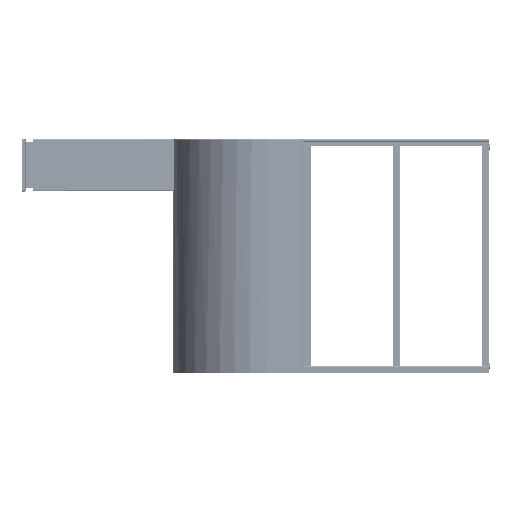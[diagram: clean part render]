
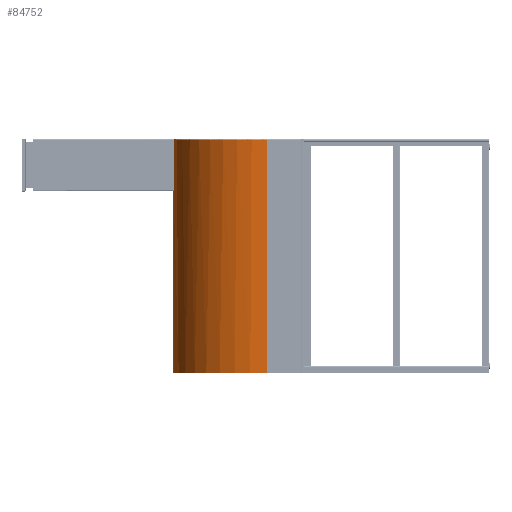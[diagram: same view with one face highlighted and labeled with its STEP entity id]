
A CAD part, left-side view. The second image highlights one B-rep face of the part: STEP entity #84752.
In plain terms, the highlighted cylindrical face has radius 400 mm (diameter 800 mm), a partial arc.
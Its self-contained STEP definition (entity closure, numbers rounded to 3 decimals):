
#495=B_SPLINE_CURVE_WITH_KNOTS('',3,(#128211,#128212,#128213,#128214,#128215,
#128216,#128217,#128218,#128219,#128220),.UNSPECIFIED.,.F.,.F.,(4,2,2,2,
4),(0.,0.075,0.151,0.227,0.302),
 .UNSPECIFIED.);
#498=B_SPLINE_CURVE_WITH_KNOTS('',3,(#128337,#128338,#128339,#128340,#128341,
#128342,#128343,#128344,#128345,#128346),.UNSPECIFIED.,.F.,.F.,(4,2,2,2,
4),(0.302,0.378,0.454,0.53,
0.605),.UNSPECIFIED.);
#7701=FACE_OUTER_BOUND('',#11750,.T.);
#11750=EDGE_LOOP('',(#58061,#58062,#58063,#58064,#58065,#58066,#58067,#58068,
#58069,#58070));
#22384=LINE('',#128350,#26913);
#22385=LINE('',#128353,#26914);
#22386=LINE('',#128354,#26915);
#22387=LINE('',#128355,#26916);
#26913=VECTOR('',#101222,10.);
#26914=VECTOR('',#101227,10.);
#26915=VECTOR('',#101228,10.);
#26916=VECTOR('',#101229,10.);
#31423=CIRCLE('',#89673,400.);
#31426=CIRCLE('',#89682,400.);
#31430=CIRCLE('',#89688,400.);
#31431=CIRCLE('',#89695,400.);
#38472=VERTEX_POINT('',#128209);
#38473=VERTEX_POINT('',#128210);
#38476=VERTEX_POINT('',#128230);
#38486=VERTEX_POINT('',#128279);
#38487=VERTEX_POINT('',#128280);
#38488=VERTEX_POINT('',#128308);
#38489=VERTEX_POINT('',#128314);
#38491=VERTEX_POINT('',#128320);
#38493=VERTEX_POINT('',#128335);
#38494=VERTEX_POINT('',#128336);
#46222=EDGE_CURVE('',#38472,#38473,#495,.F.);
#46246=EDGE_CURVE('',#38486,#38487,#31423,.T.);
#46257=EDGE_CURVE('',#38488,#38476,#31426,.T.);
#46263=EDGE_CURVE('',#38489,#38491,#31430,.T.);
#46270=EDGE_CURVE('',#38493,#38494,#498,.F.);
#46273=EDGE_CURVE('',#38486,#38473,#22384,.T.);
#46274=EDGE_CURVE('',#38472,#38494,#31431,.T.);
#46275=EDGE_CURVE('',#38493,#38476,#22385,.T.);
#46276=EDGE_CURVE('',#38488,#38491,#22386,.T.);
#46277=EDGE_CURVE('',#38487,#38489,#22387,.T.);
#58061=ORIENTED_EDGE('',*,*,#46246,.F.);
#58062=ORIENTED_EDGE('',*,*,#46273,.T.);
#58063=ORIENTED_EDGE('',*,*,#46222,.F.);
#58064=ORIENTED_EDGE('',*,*,#46274,.T.);
#58065=ORIENTED_EDGE('',*,*,#46270,.F.);
#58066=ORIENTED_EDGE('',*,*,#46275,.T.);
#58067=ORIENTED_EDGE('',*,*,#46257,.F.);
#58068=ORIENTED_EDGE('',*,*,#46276,.T.);
#58069=ORIENTED_EDGE('',*,*,#46263,.F.);
#58070=ORIENTED_EDGE('',*,*,#46277,.F.);
#81163=CYLINDRICAL_SURFACE('',#89694,400.);
#84752=ADVANCED_FACE('',(#7701),#81163,.T.);
#89673=AXIS2_PLACEMENT_3D('',#128281,#101163,#101164);
#89682=AXIS2_PLACEMENT_3D('',#128312,#101188,#101189);
#89688=AXIS2_PLACEMENT_3D('',#128324,#101202,#101203);
#89694=AXIS2_PLACEMENT_3D('',#128351,#101223,#101224);
#89695=AXIS2_PLACEMENT_3D('',#128352,#101225,#101226);
#101163=DIRECTION('center_axis',(0.,0.,1.));
#101164=DIRECTION('ref_axis',(-0.75,0.661,0.));
#101188=DIRECTION('center_axis',(0.,0.,1.));
#101189=DIRECTION('ref_axis',(0.75,0.661,0.));
#101202=DIRECTION('center_axis',(0.,0.,-1.));
#101203=DIRECTION('ref_axis',(0.,1.,0.));
#101222=DIRECTION('',(0.,0.,-1.));
#101223=DIRECTION('center_axis',(0.,0.,-1.));
#101224=DIRECTION('ref_axis',(1.,0.,0.));
#101225=DIRECTION('center_axis',(0.,0.,-1.));
#101226=DIRECTION('ref_axis',(1.,0.,0.));
#101227=DIRECTION('',(0.,0.,1.));
#101228=DIRECTION('',(0.,0.,-1.));
#101229=DIRECTION('',(0.,0.,-1.));
#128209=CARTESIAN_POINT('',(-48.,547.11,-220.));
#128210=CARTESIAN_POINT('',(-50.,546.863,-218.));
#128211=CARTESIAN_POINT('Ctrl Pts',(-50.,546.863,
-218.));
#128212=CARTESIAN_POINT('Ctrl Pts',(-50.,546.863,
-218.251));
#128213=CARTESIAN_POINT('Ctrl Pts',(-49.95,546.869,
-218.519));
#128214=CARTESIAN_POINT('Ctrl Pts',(-49.746,546.895,-219.011));
#128215=CARTESIAN_POINT('Ctrl Pts',(-49.593,546.914,
-219.235));
#128216=CARTESIAN_POINT('Ctrl Pts',(-49.238,546.958,
-219.591));
#128217=CARTESIAN_POINT('Ctrl Pts',(-49.013,546.986,
-219.745));
#128218=CARTESIAN_POINT('Ctrl Pts',(-48.519,547.047,
-219.95));
#128219=CARTESIAN_POINT('Ctrl Pts',(-48.251,547.079,-220.));
#128220=CARTESIAN_POINT('Ctrl Pts',(-48.,547.11,
-220.));
#128230=CARTESIAN_POINT('',(50.,546.863,-2.));
#128279=CARTESIAN_POINT('',(-50.,546.863,-2.));
#128280=CARTESIAN_POINT('',(-400.,150.,-2.));
#128281=CARTESIAN_POINT('Origin',(0.,150.,-2.));
#128308=CARTESIAN_POINT('',(400.,150.,-2.));
#128312=CARTESIAN_POINT('Origin',(0.,150.,-2.));
#128314=CARTESIAN_POINT('',(-400.,150.,-998.));
#128320=CARTESIAN_POINT('',(400.,150.,-998.));
#128324=CARTESIAN_POINT('Origin',(0.,150.,-998.));
#128335=CARTESIAN_POINT('',(50.,546.863,-218.));
#128336=CARTESIAN_POINT('',(48.,547.11,-220.));
#128337=CARTESIAN_POINT('Ctrl Pts',(48.,547.11,-220.));
#128338=CARTESIAN_POINT('Ctrl Pts',(48.251,547.079,-220.));
#128339=CARTESIAN_POINT('Ctrl Pts',(48.519,547.047,-219.95));
#128340=CARTESIAN_POINT('Ctrl Pts',(49.013,546.986,-219.745));
#128341=CARTESIAN_POINT('Ctrl Pts',(49.238,546.958,-219.591));
#128342=CARTESIAN_POINT('Ctrl Pts',(49.593,546.914,-219.235));
#128343=CARTESIAN_POINT('Ctrl Pts',(49.746,546.895,-219.011));
#128344=CARTESIAN_POINT('Ctrl Pts',(49.95,546.869,-218.519));
#128345=CARTESIAN_POINT('Ctrl Pts',(50.,546.863,-218.251));
#128346=CARTESIAN_POINT('Ctrl Pts',(50.,546.863,-218.));
#128350=CARTESIAN_POINT('',(-50.,546.863,0.));
#128351=CARTESIAN_POINT('Origin',(0.,150.,0.));
#128352=CARTESIAN_POINT('Origin',(0.,150.,-220.));
#128353=CARTESIAN_POINT('',(50.,546.863,0.));
#128354=CARTESIAN_POINT('',(400.,150.,0.));
#128355=CARTESIAN_POINT('',(-400.,150.,0.));
